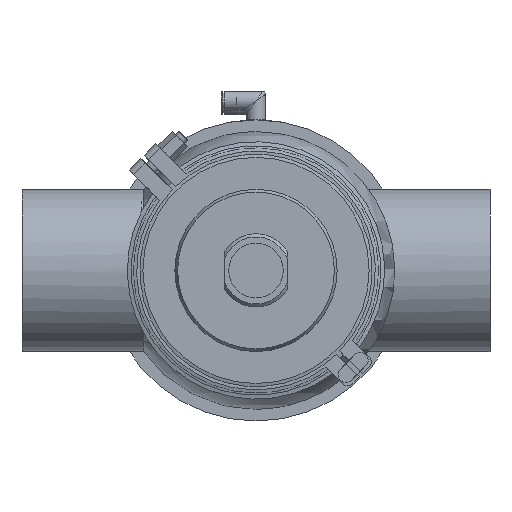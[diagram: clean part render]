
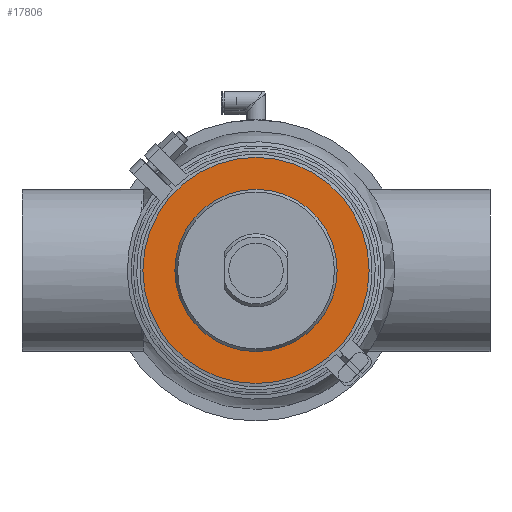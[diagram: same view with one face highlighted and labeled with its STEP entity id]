
A CAD part, front view. The second image highlights one B-rep face of the part: STEP entity #17806.
In plain terms, the highlighted planar face has unit normal (0, -1, 0).
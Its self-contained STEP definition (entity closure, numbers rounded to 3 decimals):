
#1264 = DIRECTION ( 'NONE',  ( 0., -1., 0. ) ) ;
#1572 = DIRECTION ( 'NONE',  ( 0., 0., -1. ) ) ;
#2167 = ORIENTED_EDGE ( 'NONE', *, *, #2916, .F. ) ;
#2205 = FACE_OUTER_BOUND ( 'NONE', #18367, .T. ) ;
#2916 = EDGE_CURVE ( 'NONE', #30223, #30223, #52597, .T. ) ;
#6385 = FACE_BOUND ( 'NONE', #15718, .T. ) ;
#7774 = CIRCLE ( 'NONE', #40521, 52. ) ;
#10930 = CARTESIAN_POINT ( 'NONE',  ( 0., -13., 0. ) ) ;
#15718 = EDGE_LOOP ( 'NONE', ( #23913 ) ) ;
#16370 = DIRECTION ( 'NONE',  ( 0., 0., 1. ) ) ;
#17806 = ADVANCED_FACE ( 'NONE', ( #6385, #2205 ), #41005, .T. ) ;
#18367 = EDGE_LOOP ( 'NONE', ( #2167 ) ) ;
#20375 = EDGE_CURVE ( 'NONE', #23332, #23332, #7774, .T. ) ;
#23332 = VERTEX_POINT ( 'NONE', #47789 ) ;
#23913 = ORIENTED_EDGE ( 'NONE', *, *, #20375, .T. ) ;
#30077 = AXIS2_PLACEMENT_3D ( 'NONE', #60248, #1264, #1572 ) ;
#30223 = VERTEX_POINT ( 'NONE', #34077 ) ;
#31144 = DIRECTION ( 'NONE',  ( 0., 1., 0. ) ) ;
#33009 = DIRECTION ( 'NONE',  ( 0., 0., 1. ) ) ;
#34077 = CARTESIAN_POINT ( 'NONE',  ( 0., -13., 72.5 ) ) ;
#40521 = AXIS2_PLACEMENT_3D ( 'NONE', #10930, #31144, #16370 ) ;
#41005 = PLANE ( 'NONE',  #30077 ) ;
#43319 = AXIS2_PLACEMENT_3D ( 'NONE', #61228, #46579, #33009 ) ;
#46579 = DIRECTION ( 'NONE',  ( 0., 1., 0. ) ) ;
#47789 = CARTESIAN_POINT ( 'NONE',  ( 0., -13., 52. ) ) ;
#52597 = CIRCLE ( 'NONE', #43319, 72.5 ) ;
#60248 = CARTESIAN_POINT ( 'NONE',  ( -72.5, -13., 0. ) ) ;
#61228 = CARTESIAN_POINT ( 'NONE',  ( 0., -13., 0. ) ) ;
